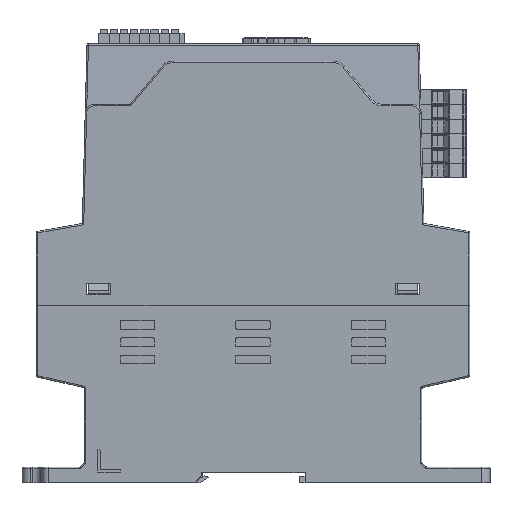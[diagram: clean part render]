
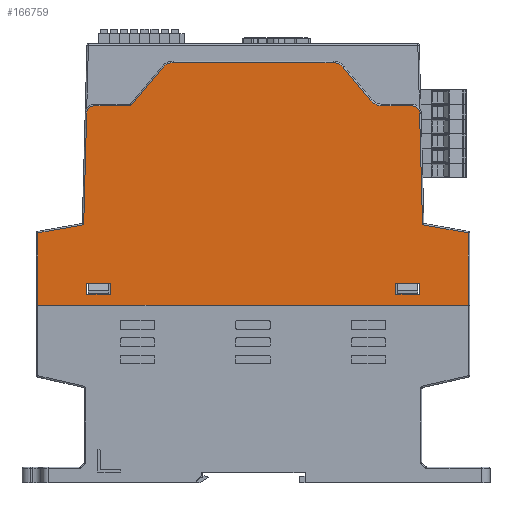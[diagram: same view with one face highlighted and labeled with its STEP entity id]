
A CAD part, left-side view. The second image highlights one B-rep face of the part: STEP entity #166759.
In plain terms, the highlighted planar face has unit normal (-1, 0, 0).
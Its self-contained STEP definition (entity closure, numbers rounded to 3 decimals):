
#119006=DIRECTION('',(0.,0.,1.));
#119007=VECTOR('',#119006,3.9);
#119008=CARTESIAN_POINT('',(-27.5,57.6,71.3));
#119009=LINE('',#119008,#119007);
#119436=DIRECTION('',(0.,-1.,0.));
#119437=VECTOR('',#119436,8.2);
#119438=CARTESIAN_POINT('',(-27.5,57.6,75.2));
#119439=LINE('',#119438,#119437);
#119457=DIRECTION('',(0.,0.,-1.));
#119458=VECTOR('',#119457,25.08);
#119459=CARTESIAN_POINT('',(-27.5,-74.5,92.58));
#119460=LINE('',#119459,#119458);
#119464=DIRECTION('',(0.,1.,0.));
#119465=VECTOR('',#119464,149.);
#119466=CARTESIAN_POINT('',(-27.5,-74.5,67.5));
#119467=LINE('',#119466,#119465);
#119471=DIRECTION('',(0.,0.,-1.));
#119472=VECTOR('',#119471,25.08);
#119473=CARTESIAN_POINT('',(-27.5,74.5,92.58));
#119474=LINE('',#119473,#119472);
#119478=DIRECTION('',(0.,-0.985,0.174));
#119479=VECTOR('',#119478,16.105);
#119480=CARTESIAN_POINT('',(-27.5,74.5,92.58));
#119481=LINE('',#119480,#119479);
#119485=DIRECTION('',(0.,0.026,-1.));
#119486=VECTOR('',#119485,38.702);
#119487=CARTESIAN_POINT('',(-27.5,57.627,134.065));
#119488=LINE('',#119487,#119486);
#119492=CARTESIAN_POINT('',(-27.5,55.127,134.));
#119493=DIRECTION('',(-1.,0.,0.));
#119494=DIRECTION('',(0.,0.,1.));
#119495=AXIS2_PLACEMENT_3D('',#119492,#119493,#119494);
#119500=DIRECTION('',(0.,1.,0.));
#119501=VECTOR('',#119500,12.774);
#119502=CARTESIAN_POINT('',(-27.5,42.353,136.5));
#119503=LINE('',#119502,#119501);
#119507=DIRECTION('',(0.,0.643,-0.766));
#119508=VECTOR('',#119507,17.483);
#119509=CARTESIAN_POINT('',(-27.5,31.116,149.893));
#119510=LINE('',#119509,#119508);
#119514=CARTESIAN_POINT('',(-27.5,27.668,147.));
#119515=DIRECTION('',(-1.,0.,0.));
#119516=DIRECTION('',(0.,0.,1.));
#119517=AXIS2_PLACEMENT_3D('',#119514,#119515,#119516);
#119522=DIRECTION('',(0.,1.,0.));
#119523=VECTOR('',#119522,55.337);
#119524=CARTESIAN_POINT('',(-27.5,-27.668,151.5));
#119525=LINE('',#119524,#119523);
#119529=CARTESIAN_POINT('',(-27.5,-27.668,147.));
#119530=DIRECTION('',(-1.,0.,0.));
#119531=DIRECTION('',(0.,-0.766,0.643));
#119532=AXIS2_PLACEMENT_3D('',#119529,#119530,#119531);
#119537=DIRECTION('',(0.,0.643,0.766));
#119538=VECTOR('',#119537,14.918);
#119539=CARTESIAN_POINT('',(-27.5,-40.705,138.465));
#119540=LINE('',#119539,#119538);
#119544=CARTESIAN_POINT('',(-27.5,-44.918,142.));
#119545=DIRECTION('',(1.,0.,0.));
#119546=DIRECTION('',(0.,0.,-1.));
#119547=AXIS2_PLACEMENT_3D('',#119544,#119545,#119546);
#119552=DIRECTION('',(0.,1.,0.));
#119553=VECTOR('',#119552,10.209);
#119554=CARTESIAN_POINT('',(-27.5,-55.127,136.5));
#119555=LINE('',#119554,#119553);
#119559=CARTESIAN_POINT('',(-27.5,-55.127,134.));
#119560=DIRECTION('',(-1.,0.,0.));
#119561=DIRECTION('',(0.,-1.,0.026));
#119562=AXIS2_PLACEMENT_3D('',#119559,#119560,#119561);
#119567=DIRECTION('',(0.,0.026,1.));
#119568=VECTOR('',#119567,38.702);
#119569=CARTESIAN_POINT('',(-27.5,-58.64,95.377));
#119570=LINE('',#119569,#119568);
#119574=DIRECTION('',(0.,-0.985,-0.174));
#119575=VECTOR('',#119574,16.105);
#119576=CARTESIAN_POINT('',(-27.5,-58.64,95.377));
#119577=LINE('',#119576,#119575);
#119581=DIRECTION('',(0.,1.,0.));
#119582=VECTOR('',#119581,8.2);
#119583=CARTESIAN_POINT('',(-27.5,49.4,71.3));
#119584=LINE('',#119583,#119582);
#119609=DIRECTION('',(0.,0.,-1.));
#119610=VECTOR('',#119609,3.9);
#119611=CARTESIAN_POINT('',(-27.5,49.4,75.2));
#119612=LINE('',#119611,#119610);
#119693=DIRECTION('',(0.,0.,1.));
#119694=VECTOR('',#119693,3.9);
#119695=CARTESIAN_POINT('',(-27.5,-49.4,71.3));
#119696=LINE('',#119695,#119694);
#119700=DIRECTION('',(0.,1.,0.));
#119701=VECTOR('',#119700,8.2);
#119702=CARTESIAN_POINT('',(-27.5,-57.6,71.3));
#119703=LINE('',#119702,#119701);
#119728=DIRECTION('',(0.,0.,-1.));
#119729=VECTOR('',#119728,3.9);
#119730=CARTESIAN_POINT('',(-27.5,-57.6,75.2));
#119731=LINE('',#119730,#119729);
#119749=DIRECTION('',(0.,-1.,0.));
#119750=VECTOR('',#119749,8.2);
#119751=CARTESIAN_POINT('',(-27.5,-49.4,75.2));
#119752=LINE('',#119751,#119750);
#134183=CARTESIAN_POINT('',(-27.5,57.6,75.2));
#134184=CARTESIAN_POINT('',(-27.5,49.4,75.2));
#134185=VERTEX_POINT('',#134183);
#134186=VERTEX_POINT('',#134184);
#134187=CARTESIAN_POINT('',(-27.5,57.6,71.3));
#134188=VERTEX_POINT('',#134187);
#134189=CARTESIAN_POINT('',(-27.5,49.4,71.3));
#134190=VERTEX_POINT('',#134189);
#135723=CARTESIAN_POINT('',(-27.5,-57.6,75.2));
#135724=CARTESIAN_POINT('',(-27.5,-57.6,71.3));
#135725=VERTEX_POINT('',#135723);
#135726=VERTEX_POINT('',#135724);
#135727=CARTESIAN_POINT('',(-27.5,-49.4,75.2));
#135728=VERTEX_POINT('',#135727);
#135729=CARTESIAN_POINT('',(-27.5,-49.4,71.3));
#135730=VERTEX_POINT('',#135729);
#139352=CARTESIAN_POINT('',(-27.5,-74.5,67.5));
#139354=VERTEX_POINT('',#139352);
#139355=CARTESIAN_POINT('',(-27.5,-74.5,92.58));
#139356=VERTEX_POINT('',#139355);
#139357=CARTESIAN_POINT('',(-27.5,-58.64,95.377));
#139358=VERTEX_POINT('',#139357);
#139365=CARTESIAN_POINT('',(-27.5,31.116,149.893));
#139366=CARTESIAN_POINT('',(-27.5,42.353,136.5));
#139367=VERTEX_POINT('',#139365);
#139368=VERTEX_POINT('',#139366);
#139369=CARTESIAN_POINT('',(-27.5,27.668,151.5));
#139370=VERTEX_POINT('',#139369);
#139373=CARTESIAN_POINT('',(-27.5,-27.668,151.5));
#139374=VERTEX_POINT('',#139373);
#139377=CARTESIAN_POINT('',(-27.5,-31.116,149.893));
#139378=VERTEX_POINT('',#139377);
#139381=CARTESIAN_POINT('',(-27.5,-40.705,138.465));
#139382=VERTEX_POINT('',#139381);
#139385=CARTESIAN_POINT('',(-27.5,-44.918,136.5));
#139386=VERTEX_POINT('',#139385);
#139389=CARTESIAN_POINT('',(-27.5,-55.127,136.5));
#139390=VERTEX_POINT('',#139389);
#139393=CARTESIAN_POINT('',(-27.5,-57.627,134.065));
#139394=VERTEX_POINT('',#139393);
#139401=CARTESIAN_POINT('',(-27.5,57.627,134.065));
#139402=CARTESIAN_POINT('',(-27.5,58.64,95.377));
#139403=VERTEX_POINT('',#139401);
#139404=VERTEX_POINT('',#139402);
#139405=CARTESIAN_POINT('',(-27.5,55.127,136.5));
#139406=VERTEX_POINT('',#139405);
#139409=CARTESIAN_POINT('',(-27.5,74.5,92.58));
#139410=VERTEX_POINT('',#139409);
#139413=CARTESIAN_POINT('',(-27.5,74.5,67.5));
#139415=VERTEX_POINT('',#139413);
#166700=CARTESIAN_POINT('',(-27.5,75.,0.));
#166701=DIRECTION('',(-1.,0.,0.));
#166702=DIRECTION('',(0.,-1.,0.));
#166703=AXIS2_PLACEMENT_3D('',#166700,#166701,#166702);
#166704=PLANE('',#166703);
#166706=ORIENTED_EDGE('',*,*,#166705,.T.);
#166708=ORIENTED_EDGE('',*,*,#166707,.T.);
#166710=ORIENTED_EDGE('',*,*,#166709,.F.);
#166712=ORIENTED_EDGE('',*,*,#166711,.T.);
#166714=ORIENTED_EDGE('',*,*,#166713,.F.);
#166716=ORIENTED_EDGE('',*,*,#166715,.F.);
#166718=ORIENTED_EDGE('',*,*,#166717,.F.);
#166720=ORIENTED_EDGE('',*,*,#166719,.F.);
#166722=ORIENTED_EDGE('',*,*,#166721,.F.);
#166724=ORIENTED_EDGE('',*,*,#166723,.F.);
#166726=ORIENTED_EDGE('',*,*,#166725,.F.);
#166728=ORIENTED_EDGE('',*,*,#166727,.F.);
#166730=ORIENTED_EDGE('',*,*,#166729,.F.);
#166732=ORIENTED_EDGE('',*,*,#166731,.F.);
#166734=ORIENTED_EDGE('',*,*,#166733,.F.);
#166736=ORIENTED_EDGE('',*,*,#166735,.F.);
#166738=ORIENTED_EDGE('',*,*,#166737,.T.);
#166739=EDGE_LOOP('',(#166706,#166708,#166710,#166712,#166714,#166716,#166718,
#166720,#166722,#166724,#166726,#166728,#166730,#166732,#166734,#166736,
#166738));
#166740=FACE_OUTER_BOUND('',#166739,.F.);
#166742=ORIENTED_EDGE('',*,*,#166741,.F.);
#166744=ORIENTED_EDGE('',*,*,#166743,.F.);
#166746=ORIENTED_EDGE('',*,*,#166745,.F.);
#166748=ORIENTED_EDGE('',*,*,#166747,.F.);
#166749=EDGE_LOOP('',(#166742,#166744,#166746,#166748));
#166750=FACE_BOUND('',#166749,.F.);
#166751=ORIENTED_EDGE('',*,*,#166692,.F.);
#166752=ORIENTED_EDGE('',*,*,#166403,.F.);
#166754=ORIENTED_EDGE('',*,*,#166753,.F.);
#166756=ORIENTED_EDGE('',*,*,#166755,.F.);
#166757=EDGE_LOOP('',(#166751,#166752,#166754,#166756));
#166758=FACE_BOUND('',#166757,.F.);
#119496=CIRCLE('',#119495,2.5);
#119518=CIRCLE('',#119517,4.5);
#119533=CIRCLE('',#119532,4.5);
#119548=CIRCLE('',#119547,5.5);
#119563=CIRCLE('',#119562,2.5);
#166403=EDGE_CURVE('',#134188,#134185,#119009,.T.);
#166692=EDGE_CURVE('',#134185,#134186,#119439,.T.);
#166705=EDGE_CURVE('',#139356,#139354,#119460,.T.);
#166707=EDGE_CURVE('',#139354,#139415,#119467,.T.);
#166709=EDGE_CURVE('',#139410,#139415,#119474,.T.);
#166711=EDGE_CURVE('',#139410,#139404,#119481,.T.);
#166713=EDGE_CURVE('',#139403,#139404,#119488,.T.);
#166715=EDGE_CURVE('',#139406,#139403,#119496,.T.);
#166717=EDGE_CURVE('',#139368,#139406,#119503,.T.);
#166719=EDGE_CURVE('',#139367,#139368,#119510,.T.);
#166721=EDGE_CURVE('',#139370,#139367,#119518,.T.);
#166723=EDGE_CURVE('',#139374,#139370,#119525,.T.);
#166725=EDGE_CURVE('',#139378,#139374,#119533,.T.);
#166727=EDGE_CURVE('',#139382,#139378,#119540,.T.);
#166729=EDGE_CURVE('',#139386,#139382,#119548,.T.);
#166731=EDGE_CURVE('',#139390,#139386,#119555,.T.);
#166733=EDGE_CURVE('',#139394,#139390,#119563,.T.);
#166735=EDGE_CURVE('',#139358,#139394,#119570,.T.);
#166737=EDGE_CURVE('',#139358,#139356,#119577,.T.);
#166741=EDGE_CURVE('',#135725,#135726,#119731,.T.);
#166743=EDGE_CURVE('',#135728,#135725,#119752,.T.);
#166745=EDGE_CURVE('',#135730,#135728,#119696,.T.);
#166747=EDGE_CURVE('',#135726,#135730,#119703,.T.);
#166753=EDGE_CURVE('',#134190,#134188,#119584,.T.);
#166755=EDGE_CURVE('',#134186,#134190,#119612,.T.);
#166759=ADVANCED_FACE('',(#166740,#166750,#166758),#166704,.T.);
